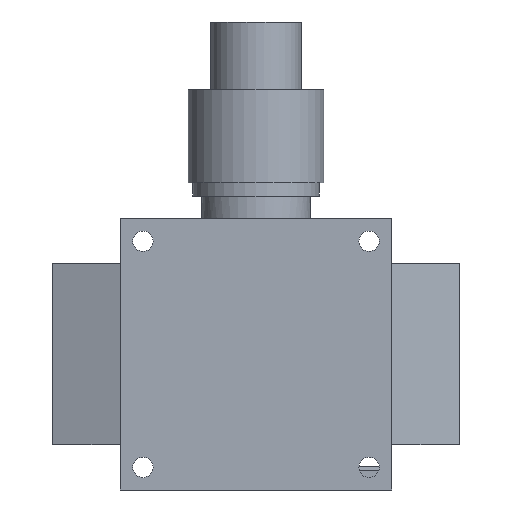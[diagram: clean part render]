
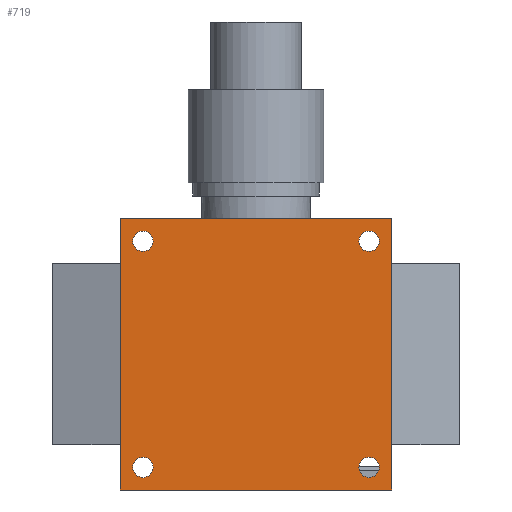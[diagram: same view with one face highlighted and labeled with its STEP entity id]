
A CAD part, front view. The second image highlights one B-rep face of the part: STEP entity #719.
In plain terms, the highlighted planar face has unit normal (0, -1, 0).
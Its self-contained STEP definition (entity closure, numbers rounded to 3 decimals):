
#315 = VERTEX_POINT ( 'NONE', #2356 ) ;
#327 = EDGE_CURVE ( 'NONE', #627, #315, #2330, .T. ) ;
#587 = EDGE_CURVE ( 'NONE', #588, #598, #2828, .T. ) ;
#588 = VERTEX_POINT ( 'NONE', #2791 ) ;
#598 = VERTEX_POINT ( 'NONE', #2821 ) ;
#623 = ORIENTED_EDGE ( 'NONE', *, *, #647, .T. ) ;
#624 = EDGE_LOOP ( 'NONE', ( #625, #628, #1916, #1907 ) ) ;
#625 = ORIENTED_EDGE ( 'NONE', *, *, #626, .T. ) ;
#626 = EDGE_CURVE ( 'NONE', #781, #627, #2854, .T. ) ;
#627 = VERTEX_POINT ( 'NONE', #2863 ) ;
#628 = ORIENTED_EDGE ( 'NONE', *, *, #327, .T. ) ;
#632 = VERTEX_POINT ( 'NONE', #2872 ) ;
#635 = EDGE_CURVE ( 'NONE', #663, #632, #2874, .T. ) ;
#647 = EDGE_CURVE ( 'NONE', #648, #649, #2896, .T. ) ;
#648 = VERTEX_POINT ( 'NONE', #3005 ) ;
#649 = VERTEX_POINT ( 'NONE', #3006 ) ;
#663 = VERTEX_POINT ( 'NONE', #2989 ) ;
#686 = ORIENTED_EDGE ( 'NONE', *, *, #691, .T. ) ;
#687 = ORIENTED_EDGE ( 'NONE', *, *, #587, .T. ) ;
#688 = EDGE_LOOP ( 'NONE', ( #689, #690 ) ) ;
#689 = ORIENTED_EDGE ( 'NONE', *, *, #725, .T. ) ;
#690 = ORIENTED_EDGE ( 'NONE', *, *, #785, .T. ) ;
#691 = EDGE_CURVE ( 'NONE', #598, #588, #2969, .T. ) ;
#698 = EDGE_LOOP ( 'NONE', ( #699, #700 ) ) ;
#699 = ORIENTED_EDGE ( 'NONE', *, *, #727, .T. ) ;
#700 = ORIENTED_EDGE ( 'NONE', *, *, #635, .T. ) ;
#701 = EDGE_LOOP ( 'NONE', ( #702, #623 ) ) ;
#702 = ORIENTED_EDGE ( 'NONE', *, *, #756, .T. ) ;
#719 = ADVANCED_FACE ( 'NONE', ( #2935, #2934, #2933, #2932, #2931 ), #2929, .F. ) ;
#720 = EDGE_LOOP ( 'NONE', ( #686, #687 ) ) ;
#725 = EDGE_CURVE ( 'NONE', #795, #790, #3051, .T. ) ;
#727 = EDGE_CURVE ( 'NONE', #632, #663, #3072, .T. ) ;
#756 = EDGE_CURVE ( 'NONE', #649, #648, #3082, .T. ) ;
#779 = EDGE_CURVE ( 'NONE', #780, #781, #3132, .T. ) ;
#780 = VERTEX_POINT ( 'NONE', #3128 ) ;
#781 = VERTEX_POINT ( 'NONE', #3127 ) ;
#785 = EDGE_CURVE ( 'NONE', #790, #795, #1809, .T. ) ;
#790 = VERTEX_POINT ( 'NONE', #3155 ) ;
#795 = VERTEX_POINT ( 'NONE', #3188 ) ;
#1799 = DIRECTION ( 'NONE',  ( 0., 1., 0. ) ) ;
#1802 = DIRECTION ( 'NONE',  ( -1., 0., 0. ) ) ;
#1803 = DIRECTION ( 'NONE',  ( -1., 0., 0. ) ) ;
#1804 = DIRECTION ( 'NONE',  ( 0., 1., 0. ) ) ;
#1805 = DIRECTION ( 'NONE',  ( 0., 1., 0. ) ) ;
#1809 = CIRCLE ( 'NONE', #1822, 2.25 ) ;
#1821 = CARTESIAN_POINT ( 'NONE',  ( 25., 0., 25. ) ) ;
#1822 = AXIS2_PLACEMENT_3D ( 'NONE', #1821, #1804, #2003 ) ;
#1906 = EDGE_CURVE ( 'NONE', #315, #780, #4050, .T. ) ;
#1907 = ORIENTED_EDGE ( 'NONE', *, *, #779, .T. ) ;
#1916 = ORIENTED_EDGE ( 'NONE', *, *, #1906, .T. ) ;
#2003 = DIRECTION ( 'NONE',  ( -1., 0., 0. ) ) ;
#2327 = DIRECTION ( 'NONE',  ( -1., 0., 0. ) ) ;
#2328 = VECTOR ( 'NONE', #2327, 1000. ) ;
#2329 = CARTESIAN_POINT ( 'NONE',  ( 30., 0., 30. ) ) ;
#2330 = LINE ( 'NONE', #2329, #2328 ) ;
#2356 = CARTESIAN_POINT ( 'NONE',  ( -30., 0., 30. ) ) ;
#2786 = CARTESIAN_POINT ( 'NONE',  ( -25., 0., 25. ) ) ;
#2787 = AXIS2_PLACEMENT_3D ( 'NONE', #2786, #2793, #2792 ) ;
#2791 = CARTESIAN_POINT ( 'NONE',  ( -22.75, 0., 25. ) ) ;
#2792 = DIRECTION ( 'NONE',  ( -1., 0., 0. ) ) ;
#2793 = DIRECTION ( 'NONE',  ( 0., 1., 0. ) ) ;
#2821 = CARTESIAN_POINT ( 'NONE',  ( -27.25, 0., 25. ) ) ;
#2828 = CIRCLE ( 'NONE', #2787, 2.25 ) ;
#2853 = CARTESIAN_POINT ( 'NONE',  ( 30., 0., 30. ) ) ;
#2854 = LINE ( 'NONE', #2853, #2865 ) ;
#2863 = CARTESIAN_POINT ( 'NONE',  ( 30., 0., 30. ) ) ;
#2864 = DIRECTION ( 'NONE',  ( 0., 0., 1. ) ) ;
#2865 = VECTOR ( 'NONE', #2864, 1000. ) ;
#2872 = CARTESIAN_POINT ( 'NONE',  ( 22.75, 0., -25. ) ) ;
#2873 = AXIS2_PLACEMENT_3D ( 'NONE', #2881, #1805, #1803 ) ;
#2874 = CIRCLE ( 'NONE', #2873, 2.25 ) ;
#2881 = CARTESIAN_POINT ( 'NONE',  ( 25., 0., -25. ) ) ;
#2894 = CARTESIAN_POINT ( 'NONE',  ( -25., 0., -25. ) ) ;
#2895 = AXIS2_PLACEMENT_3D ( 'NONE', #2894, #1799, #1802 ) ;
#2896 = CIRCLE ( 'NONE', #2895, 2.25 ) ;
#2925 = DIRECTION ( 'NONE',  ( -1., 0., 0. ) ) ;
#2926 = DIRECTION ( 'NONE',  ( 0., 1., 0. ) ) ;
#2927 = CARTESIAN_POINT ( 'NONE',  ( 30., 0., 30. ) ) ;
#2928 = AXIS2_PLACEMENT_3D ( 'NONE', #2927, #2926, #2925 ) ;
#2929 = PLANE ( 'NONE',  #2928 ) ;
#2931 = FACE_OUTER_BOUND ( 'NONE', #624, .T. ) ;
#2932 = FACE_BOUND ( 'NONE', #701, .T. ) ;
#2933 = FACE_BOUND ( 'NONE', #698, .T. ) ;
#2934 = FACE_BOUND ( 'NONE', #688, .T. ) ;
#2935 = FACE_BOUND ( 'NONE', #720, .T. ) ;
#2965 = DIRECTION ( 'NONE',  ( -1., 0., 0. ) ) ;
#2966 = DIRECTION ( 'NONE',  ( 0., 1., 0. ) ) ;
#2967 = CARTESIAN_POINT ( 'NONE',  ( -25., 0., 25. ) ) ;
#2968 = AXIS2_PLACEMENT_3D ( 'NONE', #2967, #2966, #2965 ) ;
#2969 = CIRCLE ( 'NONE', #2968, 2.25 ) ;
#2989 = CARTESIAN_POINT ( 'NONE',  ( 27.25, 0., -25. ) ) ;
#3005 = CARTESIAN_POINT ( 'NONE',  ( -22.75, 0., -25. ) ) ;
#3006 = CARTESIAN_POINT ( 'NONE',  ( -27.25, 0., -25. ) ) ;
#3051 = CIRCLE ( 'NONE', #3098, 2.25 ) ;
#3072 = CIRCLE ( 'NONE', #3073, 2.25 ) ;
#3073 = AXIS2_PLACEMENT_3D ( 'NONE', #3074, #3139, #3138 ) ;
#3074 = CARTESIAN_POINT ( 'NONE',  ( 25., 0., -25. ) ) ;
#3079 = DIRECTION ( 'NONE',  ( -1., 0., 0. ) ) ;
#3080 = DIRECTION ( 'NONE',  ( 0., 1., 0. ) ) ;
#3081 = AXIS2_PLACEMENT_3D ( 'NONE', #3099, #3080, #3079 ) ;
#3082 = CIRCLE ( 'NONE', #3081, 2.25 ) ;
#3086 = DIRECTION ( 'NONE',  ( 0., 1., 0. ) ) ;
#3087 = CARTESIAN_POINT ( 'NONE',  ( 25., 0., 25. ) ) ;
#3098 = AXIS2_PLACEMENT_3D ( 'NONE', #3087, #3086, #3137 ) ;
#3099 = CARTESIAN_POINT ( 'NONE',  ( -25., 0., -25. ) ) ;
#3127 = CARTESIAN_POINT ( 'NONE',  ( 30., 0., -30. ) ) ;
#3128 = CARTESIAN_POINT ( 'NONE',  ( -30., 0., -30. ) ) ;
#3129 = DIRECTION ( 'NONE',  ( 1., 0., 0. ) ) ;
#3130 = VECTOR ( 'NONE', #3129, 1000. ) ;
#3131 = CARTESIAN_POINT ( 'NONE',  ( 30., 0., -30. ) ) ;
#3132 = LINE ( 'NONE', #3131, #3130 ) ;
#3137 = DIRECTION ( 'NONE',  ( -1., 0., 0. ) ) ;
#3138 = DIRECTION ( 'NONE',  ( -1., 0., 0. ) ) ;
#3139 = DIRECTION ( 'NONE',  ( 0., 1., 0. ) ) ;
#3155 = CARTESIAN_POINT ( 'NONE',  ( 27.25, 0., 25. ) ) ;
#3188 = CARTESIAN_POINT ( 'NONE',  ( 22.75, 0., 25. ) ) ;
#4047 = DIRECTION ( 'NONE',  ( 0., 0., -1. ) ) ;
#4048 = VECTOR ( 'NONE', #4047, 1000. ) ;
#4049 = CARTESIAN_POINT ( 'NONE',  ( -30., 0., 30. ) ) ;
#4050 = LINE ( 'NONE', #4049, #4048 ) ;
